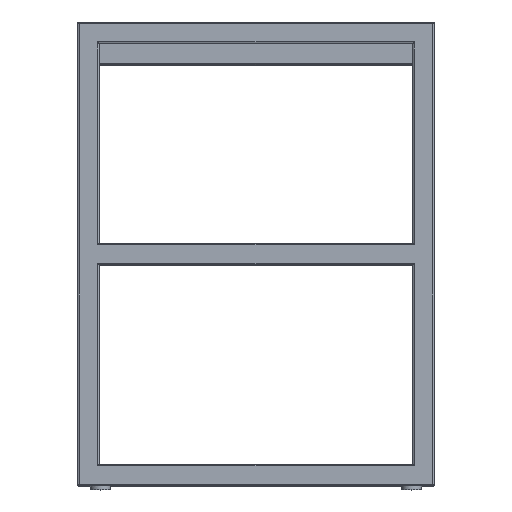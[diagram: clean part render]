
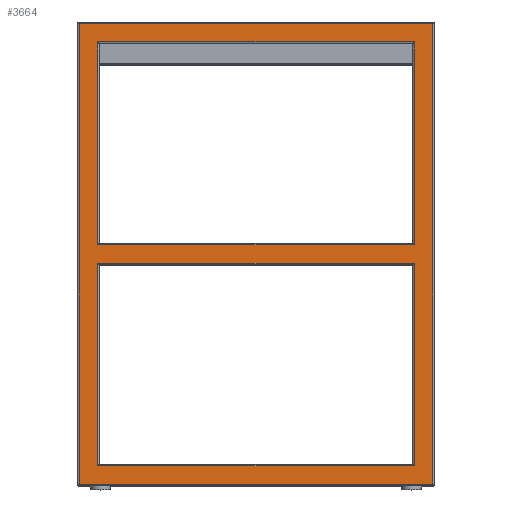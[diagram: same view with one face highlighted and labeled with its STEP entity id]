
A CAD part, top view. The second image highlights one B-rep face of the part: STEP entity #3664.
In plain terms, the highlighted planar face has unit normal (0, 0, 1).
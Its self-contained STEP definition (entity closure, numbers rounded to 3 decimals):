
#119=FACE_BOUND('',#591,.T.);
#120=FACE_BOUND('',#592,.T.);
#150=PLANE('',#4029);
#360=FACE_OUTER_BOUND('',#590,.T.);
#590=EDGE_LOOP('',(#2955,#2956,#2957,#2958));
#591=EDGE_LOOP('',(#2959,#2960,#2961,#2962));
#592=EDGE_LOOP('',(#2963,#2964,#2965,#2966));
#968=LINE('',#5780,#1386);
#969=LINE('',#5788,#1387);
#973=LINE('',#5810,#1391);
#974=LINE('',#5812,#1392);
#984=LINE('',#5848,#1402);
#985=LINE('',#5850,#1403);
#986=LINE('',#5852,#1404);
#987=LINE('',#5853,#1405);
#988=LINE('',#5856,#1406);
#989=LINE('',#5858,#1407);
#990=LINE('',#5860,#1408);
#991=LINE('',#5861,#1409);
#1386=VECTOR('',#4671,10.);
#1387=VECTOR('',#4682,10.);
#1391=VECTOR('',#4718,10.);
#1392=VECTOR('',#4721,10.);
#1402=VECTOR('',#4759,10.);
#1403=VECTOR('',#4760,10.);
#1404=VECTOR('',#4761,10.);
#1405=VECTOR('',#4762,10.);
#1406=VECTOR('',#4763,10.);
#1407=VECTOR('',#4764,10.);
#1408=VECTOR('',#4765,10.);
#1409=VECTOR('',#4766,10.);
#1778=VERTEX_POINT('',#5762);
#1781=VERTEX_POINT('',#5775);
#1783=VERTEX_POINT('',#5784);
#1785=VERTEX_POINT('',#5806);
#1796=VERTEX_POINT('',#5846);
#1797=VERTEX_POINT('',#5847);
#1798=VERTEX_POINT('',#5849);
#1799=VERTEX_POINT('',#5851);
#1800=VERTEX_POINT('',#5854);
#1801=VERTEX_POINT('',#5855);
#1802=VERTEX_POINT('',#5857);
#1803=VERTEX_POINT('',#5859);
#2189=EDGE_CURVE('',#1781,#1778,#968,.T.);
#2193=EDGE_CURVE('',#1778,#1783,#969,.T.);
#2206=EDGE_CURVE('',#1783,#1785,#973,.T.);
#2207=EDGE_CURVE('',#1785,#1781,#974,.T.);
#2224=EDGE_CURVE('',#1796,#1797,#984,.T.);
#2225=EDGE_CURVE('',#1798,#1796,#985,.T.);
#2226=EDGE_CURVE('',#1799,#1798,#986,.T.);
#2227=EDGE_CURVE('',#1797,#1799,#987,.T.);
#2228=EDGE_CURVE('',#1800,#1801,#988,.T.);
#2229=EDGE_CURVE('',#1802,#1800,#989,.T.);
#2230=EDGE_CURVE('',#1803,#1802,#990,.T.);
#2231=EDGE_CURVE('',#1801,#1803,#991,.T.);
#2955=ORIENTED_EDGE('',*,*,#2189,.F.);
#2956=ORIENTED_EDGE('',*,*,#2207,.F.);
#2957=ORIENTED_EDGE('',*,*,#2206,.F.);
#2958=ORIENTED_EDGE('',*,*,#2193,.F.);
#2959=ORIENTED_EDGE('',*,*,#2224,.F.);
#2960=ORIENTED_EDGE('',*,*,#2225,.F.);
#2961=ORIENTED_EDGE('',*,*,#2226,.F.);
#2962=ORIENTED_EDGE('',*,*,#2227,.F.);
#2963=ORIENTED_EDGE('',*,*,#2228,.F.);
#2964=ORIENTED_EDGE('',*,*,#2229,.F.);
#2965=ORIENTED_EDGE('',*,*,#2230,.F.);
#2966=ORIENTED_EDGE('',*,*,#2231,.F.);
#3664=ADVANCED_FACE('',(#360,#119,#120),#150,.T.);
#4029=AXIS2_PLACEMENT_3D('',#5845,#4757,#4758);
#4671=DIRECTION('',(0.,-1.,0.));
#4682=DIRECTION('',(-1.,0.,0.));
#4718=DIRECTION('',(0.,1.,0.));
#4721=DIRECTION('',(1.,0.,0.));
#4757=DIRECTION('center_axis',(0.,0.,1.));
#4758=DIRECTION('ref_axis',(1.,0.,0.));
#4759=DIRECTION('',(1.,0.,0.));
#4760=DIRECTION('',(0.,-1.,0.));
#4761=DIRECTION('',(-1.,0.,0.));
#4762=DIRECTION('',(0.,1.,0.));
#4763=DIRECTION('',(0.,1.,0.));
#4764=DIRECTION('',(1.,0.,0.));
#4765=DIRECTION('',(0.,-1.,0.));
#4766=DIRECTION('',(-1.,0.,0.));
#5762=CARTESIAN_POINT('',(248.,2.,250.));
#5775=CARTESIAN_POINT('',(248.,648.,250.));
#5780=CARTESIAN_POINT('',(248.,0.,250.));
#5784=CARTESIAN_POINT('',(-248.,2.,250.));
#5788=CARTESIAN_POINT('',(-125.,2.,250.));
#5806=CARTESIAN_POINT('',(-248.,648.,250.));
#5810=CARTESIAN_POINT('',(-248.,0.,250.));
#5812=CARTESIAN_POINT('',(-242.5,648.,250.));
#5845=CARTESIAN_POINT('Origin',(-250.,0.,250.));
#5846=CARTESIAN_POINT('',(-222.,28.,250.));
#5847=CARTESIAN_POINT('',(222.,28.,250.));
#5848=CARTESIAN_POINT('',(-125.,28.,250.));
#5849=CARTESIAN_POINT('',(-222.,312.,250.));
#5850=CARTESIAN_POINT('',(-222.,15.,250.));
#5851=CARTESIAN_POINT('',(222.,312.,250.));
#5852=CARTESIAN_POINT('',(-125.,312.,250.));
#5853=CARTESIAN_POINT('',(222.,15.,250.));
#5854=CARTESIAN_POINT('',(222.,338.,250.));
#5855=CARTESIAN_POINT('',(222.,622.,250.));
#5856=CARTESIAN_POINT('',(222.,15.,250.));
#5857=CARTESIAN_POINT('',(-222.,338.,250.));
#5858=CARTESIAN_POINT('',(-125.,338.,250.));
#5859=CARTESIAN_POINT('',(-222.,622.,250.));
#5860=CARTESIAN_POINT('',(-222.,15.,250.));
#5861=CARTESIAN_POINT('',(-125.,622.,250.));
